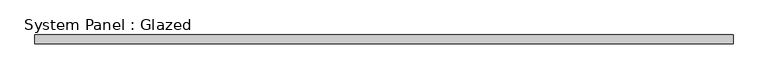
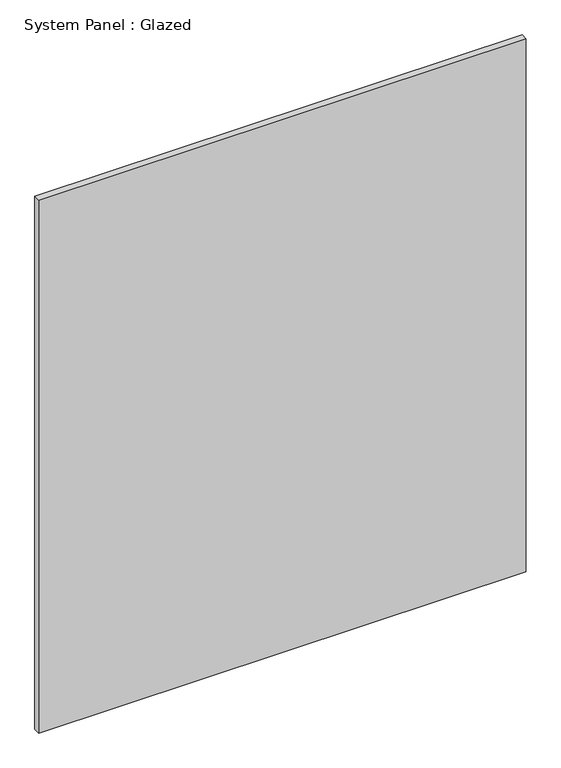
"""IFC4 building model written with IfcOpenShell, lengths in millimetres: plate geometry, System Panel : Glazed."""

from ifc_helpers import new_model, si_unit, origin, origin_with_axes, place, context, project, spatial, polyline, outline, extrude, source, transform, mapped, element, save


def system_panel_glazed_1fb8dec9(model_context):
    return source(origin(), model_context, "Body", "SweptSolid", [
        extrude(outline(polyline([(989.2021654, 19.05), (-989.2021654, 19.05), (-989.2021654, 44.45), (989.2021654, 44.45), (989.2021654, 19.05)])), origin_with_axes(), (0.0, 0.0, 1.0), 2286.0),
    ])


if __name__ == "__main__":
    model = new_model("IFC4")
    model_context = context("Model", 3, world=origin())
    ifc_project = project(units=[si_unit("LENGTHUNIT", "METRE", prefix="MILLI")], contexts=[model_context])
    site = spatial("IfcSite", under=ifc_project)
    building = spatial("IfcBuilding", under=site)
    placement = place(None, origin())
    system_panel_glazed_shape = system_panel_glazed_1fb8dec9(model_context)
    element("IfcPlate", 1, ObjectType="System Panel : Glazed", at=placement, inside=building, context=model_context, shape_type="MappedRepresentation", body=[
        mapped(system_panel_glazed_shape, transform((0.0, 0.0, 0.0), x_axis=(1.0, 0.0, 0.0), y_axis=(0.0, 1.0, 0.0), z_axis=(0.0, 0.0, 1.0))),
    ])
    save(model, "model.ifc")
